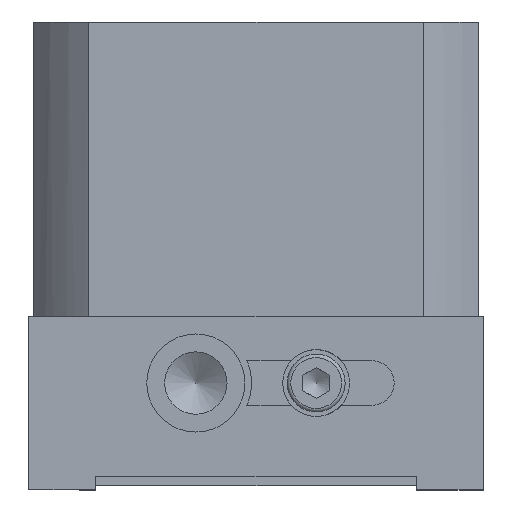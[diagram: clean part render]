
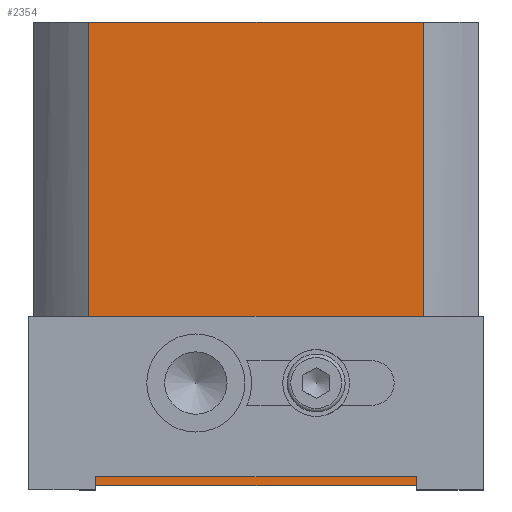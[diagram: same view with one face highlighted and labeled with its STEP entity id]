
A CAD part, left-side view. The second image highlights one B-rep face of the part: STEP entity #2354.
In plain terms, the highlighted planar face has unit normal (-1, 0, 0).
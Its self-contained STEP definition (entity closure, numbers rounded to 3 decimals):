
#484=CARTESIAN_POINT('',(-50.,36.5,-70.));
#485=VERTEX_POINT('',#484);
#486=CARTESIAN_POINT('',(-50.,36.5,-81.));
#487=DIRECTION('',(-1.0,0.0,0.0));
#488=DIRECTION('',(0.0,-1.0,0.0));
#489=AXIS2_PLACEMENT_3D('',#486,#487,#488);
#490=CIRCLE('',#489,11.0);
#491=EDGE_CURVE('',#485,#485,#490,.T.);
#543=CARTESIAN_POINT('',(-50.,63.5,-70.));
#544=VERTEX_POINT('',#543);
#545=CARTESIAN_POINT('',(-50.,63.5,-81.));
#546=DIRECTION('',(-1.0,0.0,0.0));
#547=DIRECTION('',(0.0,1.0,0.0));
#548=AXIS2_PLACEMENT_3D('',#545,#546,#547);
#549=CIRCLE('',#548,11.0);
#550=EDGE_CURVE('',#544,#544,#549,.T.);
#2309=CARTESIAN_POINT('',(-50.0,87.5,0.0));
#2310=DIRECTION('',(-1.0,0.0,0.0));
#2311=DIRECTION('',(0.0,0.0,1.0));
#2312=AXIS2_PLACEMENT_3D('',#2309,#2310,#2311);
#2313=PLANE('',#2312);
#2314=CARTESIAN_POINT('',(-50.0,12.5,0.0));
#2315=VERTEX_POINT('',#2314);
#2316=CARTESIAN_POINT('',(-50.,12.5,-104.0));
#2317=VERTEX_POINT('',#2316);
#2318=CARTESIAN_POINT('',(-50.0,12.5,0.0));
#2319=DIRECTION('',(0.0,0.0,-1.0));
#2320=VECTOR('',#2319,104.0);
#2321=LINE('',#2318,#2320);
#2322=EDGE_CURVE('',#2315,#2317,#2321,.T.);
#2323=ORIENTED_EDGE('',*,*,#2322,.F.);
#2324=CARTESIAN_POINT('',(-50.0,87.5,0.0));
#2325=VERTEX_POINT('',#2324);
#2326=CARTESIAN_POINT('',(-50.0,87.5,0.0));
#2327=DIRECTION('',(0.0,-1.0,0.0));
#2328=VECTOR('',#2327,75.0);
#2329=LINE('',#2326,#2328);
#2330=EDGE_CURVE('',#2325,#2315,#2329,.T.);
#2331=ORIENTED_EDGE('',*,*,#2330,.F.);
#2332=CARTESIAN_POINT('',(-50.,87.5,-104.0));
#2333=VERTEX_POINT('',#2332);
#2334=CARTESIAN_POINT('',(-50.0,87.5,0.0));
#2335=DIRECTION('',(0.0,0.0,-1.0));
#2336=VECTOR('',#2335,104.0);
#2337=LINE('',#2334,#2336);
#2338=EDGE_CURVE('',#2325,#2333,#2337,.T.);
#2339=ORIENTED_EDGE('',*,*,#2338,.T.);
#2340=CARTESIAN_POINT('',(-50.,87.5,-104.0));
#2341=DIRECTION('',(0.0,-1.0,0.0));
#2342=VECTOR('',#2341,75.);
#2343=LINE('',#2340,#2342);
#2344=EDGE_CURVE('',#2333,#2317,#2343,.T.);
#2345=ORIENTED_EDGE('',*,*,#2344,.T.);
#2346=EDGE_LOOP('',(#2323,#2331,#2339,#2345));
#2347=FACE_OUTER_BOUND('',#2346,.T.);
#2348=ORIENTED_EDGE('',*,*,#550,.F.);
#2349=EDGE_LOOP('',(#2348));
#2350=FACE_BOUND('',#2349,.T.);
#2351=ORIENTED_EDGE('',*,*,#491,.F.);
#2352=EDGE_LOOP('',(#2351));
#2353=FACE_BOUND('',#2352,.T.);
#2354=ADVANCED_FACE('',(#2347,#2350,#2353),#2313,.T.);
